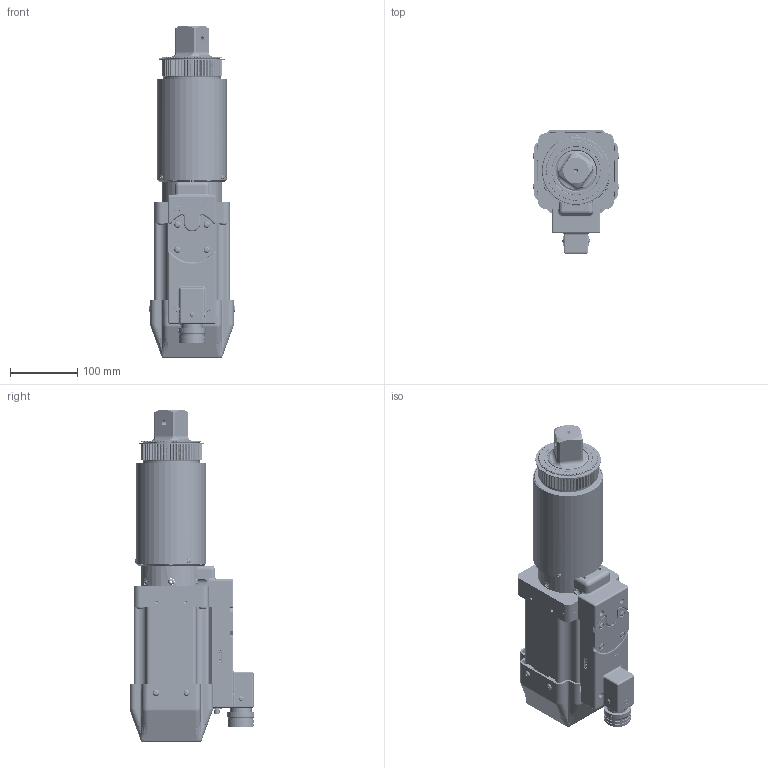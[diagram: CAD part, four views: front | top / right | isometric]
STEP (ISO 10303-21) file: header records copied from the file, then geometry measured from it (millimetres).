
FILE_DESCRIPTION (( 'STEP AP214' ), '1' );
FILE_NAME ('AEF4A996500B.STEP', '2021-04-09T21:42:24', ( '' ), ( '' ), 'SwSTEP 2.0', 'SolidWorks 2020', '' );
FILE_SCHEMA (( 'AUTOMOTIVE_DESIGN' ));
Length unit declared in the file: inch
Products named in the file (1): AEF4A996500B
Bounding box: 128.96 x 185.62 x 493.97 mm (x, y, z)
Volume: 1605103.6 mm3; surface area: 663912.5 mm2
Topology: 123 solids, 123 shells, 5585 faces, 13931 edges, 8839 vertices
Faces by surface type: plane 2340, cylinder 1556, bspline 832, cone 428, torus 365, sphere 64
Entity records: 336006 total; most frequent: CARTESIAN_POINT 133404, ORIENTED_EDGE 27570, DIRECTION 24831, EDGE_CURVE 13785, VERTEX_POINT 8837, AXIS2_PLACEMENT_3D 8770, VECTOR 7291, LINE 7291
